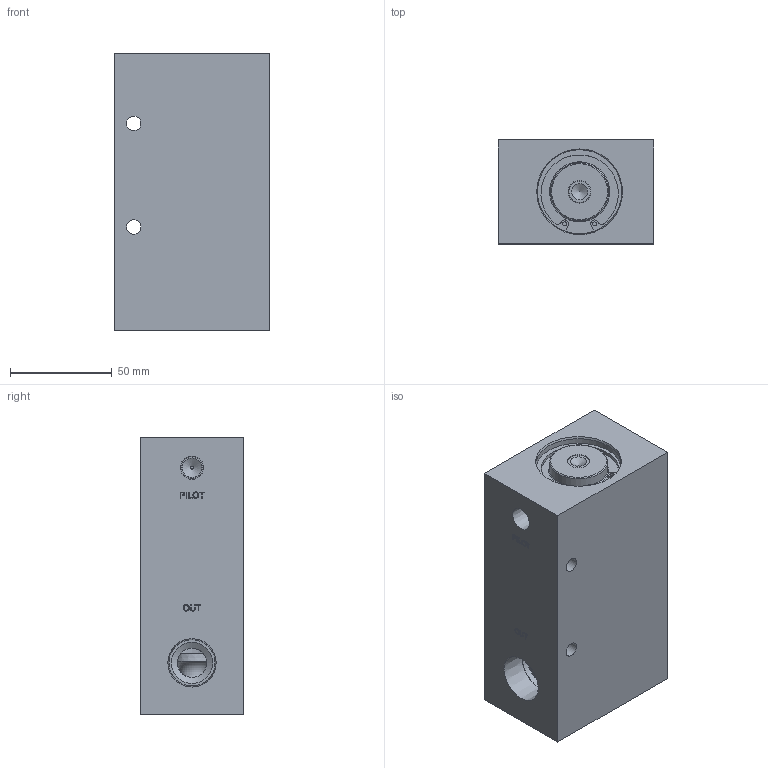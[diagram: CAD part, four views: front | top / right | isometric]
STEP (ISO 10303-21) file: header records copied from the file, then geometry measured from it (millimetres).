
FILE_DESCRIPTION(/* description */ (''),/* implementation_level */ '2;1');
FILE_NAME(/* name */ 'L:\ALADCO\Advertising\3D Content\Valves\Step Files - 2014-11-19 thru Present\31750X.stp',/* time_stamp */ '2014-11-19T14:32:16-06:00',/* author */ ('dmatz'),/* organization */ ('Aladdin Eng. & Manf. Inc.'),/* preprocessor_version */ 'ST-DEVELOPER v15.2',/* originating_system */ 'Autodesk Inventor 2014',/* authorisation */ '0 in^3');
FILE_SCHEMA (('AUTOMOTIVE_DESIGN { 1 0 10303 214 3 1 1 }'));
Length unit declared in the file: inch
Products named in the file (10): 311045; 311050; 1.312-1.25; 311058; 311047; 311020; 1.625-1.562; 311057; 311066; 317501
Bounding box: 76.2 x 50.8 x 136.01 mm (x, y, z)
Volume: 422144.3 mm3; surface area: 72664.3 mm2
Topology: 7 solids, 7 shells, 239 faces, 542 edges, 356 vertices
Faces by surface type: plane 117, cylinder 57, bspline 26, cone 21, torus 18
Full cylindrical faces by diameter (mm): 1.499 x1, 1.93 x4, 3.302 x1, 6.629 x1, 6.858 x1, 7.112 x2, 7.938 x1, 10.719 x1, 11.049 x2, 11.1 x2, 12.7 x1, 14.249 x1, 14.287 x2, 17.501 x1, 18.034 x1, 19.05 x2, 20.015 x1, 20.241 x2, 22.631 x2, 28.448 x1, 29.21 x1, 31.75 x1, 33.274 x2, 33.325 x3, 35.458 x1, 37.16 x1, 38.1 x1, 41.224 x2, 41.275 x2, 43.815 x1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
Entity records: 6939 total; most frequent: CARTESIAN_POINT 1688, DIRECTION 984, ORIENTED_EDGE 862, EDGE_CURVE 431, EDGE_LOOP 386, AXIS2_PLACEMENT_3D 380, VERTEX_POINT 329, ADVANCED_FACE 239
